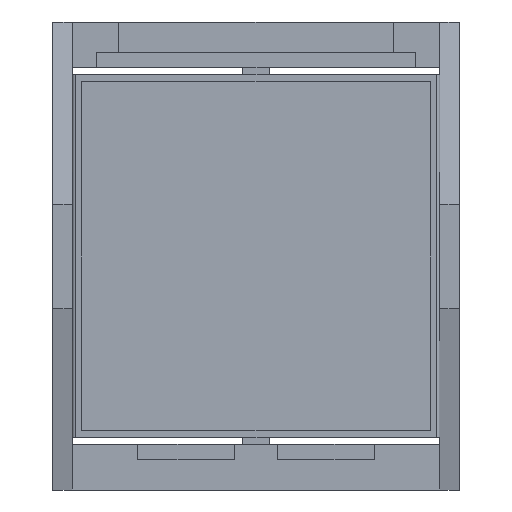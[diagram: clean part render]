
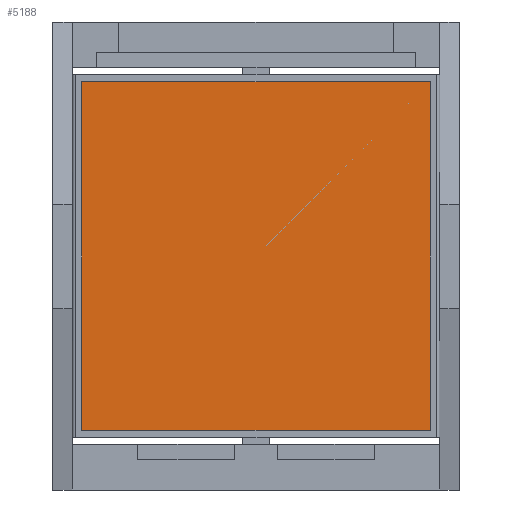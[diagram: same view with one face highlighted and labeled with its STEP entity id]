
A CAD part, front view. The second image highlights one B-rep face of the part: STEP entity #5188.
In plain terms, the highlighted planar face has unit normal (0, -1, 0).
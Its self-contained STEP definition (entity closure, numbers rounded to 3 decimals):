
#177 = DIRECTION ( 'NONE',  ( 0., 1., 0. ) ) ;
#224 = FACE_OUTER_BOUND ( 'NONE', #1460, .T. ) ;
#295 = CARTESIAN_POINT ( 'NONE',  ( -12.7, -0.127, 12.7 ) ) ;
#457 = LINE ( 'NONE', #5354, #3110 ) ;
#891 = EDGE_CURVE ( 'NONE', #2774, #7551, #5008, .T. ) ;
#1072 = LINE ( 'NONE', #1114, #7413 ) ;
#1114 = CARTESIAN_POINT ( 'NONE',  ( -12.7, -0.127, 12.7 ) ) ;
#1416 = CARTESIAN_POINT ( 'NONE',  ( -12.7, -0.127, -12.7 ) ) ;
#1460 = EDGE_LOOP ( 'NONE', ( #7533, #6463, #7287, #6825 ) ) ;
#1942 = EDGE_CURVE ( 'NONE', #6331, #2774, #3275, .T. ) ;
#2092 = VERTEX_POINT ( 'NONE', #7910 ) ;
#2655 = DIRECTION ( 'NONE',  ( -1., 0., 0. ) ) ;
#2752 = VECTOR ( 'NONE', #2655, 1000. ) ;
#2774 = VERTEX_POINT ( 'NONE', #3941 ) ;
#3110 = VECTOR ( 'NONE', #4084, 1000. ) ;
#3275 = LINE ( 'NONE', #1416, #2752 ) ;
#3639 = DIRECTION ( 'NONE',  ( 1., 0., 0. ) ) ;
#3792 = DIRECTION ( 'NONE',  ( 0., 0., 1. ) ) ;
#3894 = PLANE ( 'NONE',  #4878 ) ;
#3941 = CARTESIAN_POINT ( 'NONE',  ( -12.7, -0.127, -12.7 ) ) ;
#4084 = DIRECTION ( 'NONE',  ( 0., 0., -1. ) ) ;
#4878 = AXIS2_PLACEMENT_3D ( 'NONE', #6366, #177, #5151 ) ;
#5008 = LINE ( 'NONE', #6298, #8052 ) ;
#5151 = DIRECTION ( 'NONE',  ( 0., 0., 1. ) ) ;
#5188 = ADVANCED_FACE ( 'NONE', ( #224 ), #3894, .F. ) ;
#5354 = CARTESIAN_POINT ( 'NONE',  ( 12.7, -0.127, -12.7 ) ) ;
#6298 = CARTESIAN_POINT ( 'NONE',  ( -12.7, -0.127, -12.7 ) ) ;
#6331 = VERTEX_POINT ( 'NONE', #7226 ) ;
#6366 = CARTESIAN_POINT ( 'NONE',  ( -12.7, -0.127, 12.7 ) ) ;
#6463 = ORIENTED_EDGE ( 'NONE', *, *, #1942, .F. ) ;
#6825 = ORIENTED_EDGE ( 'NONE', *, *, #8015, .F. ) ;
#7226 = CARTESIAN_POINT ( 'NONE',  ( 12.7, -0.127, -12.7 ) ) ;
#7287 = ORIENTED_EDGE ( 'NONE', *, *, #7470, .F. ) ;
#7413 = VECTOR ( 'NONE', #3639, 1000. ) ;
#7470 = EDGE_CURVE ( 'NONE', #2092, #6331, #457, .T. ) ;
#7533 = ORIENTED_EDGE ( 'NONE', *, *, #891, .F. ) ;
#7551 = VERTEX_POINT ( 'NONE', #295 ) ;
#7910 = CARTESIAN_POINT ( 'NONE',  ( 12.7, -0.127, 12.7 ) ) ;
#8015 = EDGE_CURVE ( 'NONE', #7551, #2092, #1072, .T. ) ;
#8052 = VECTOR ( 'NONE', #3792, 1000. ) ;
